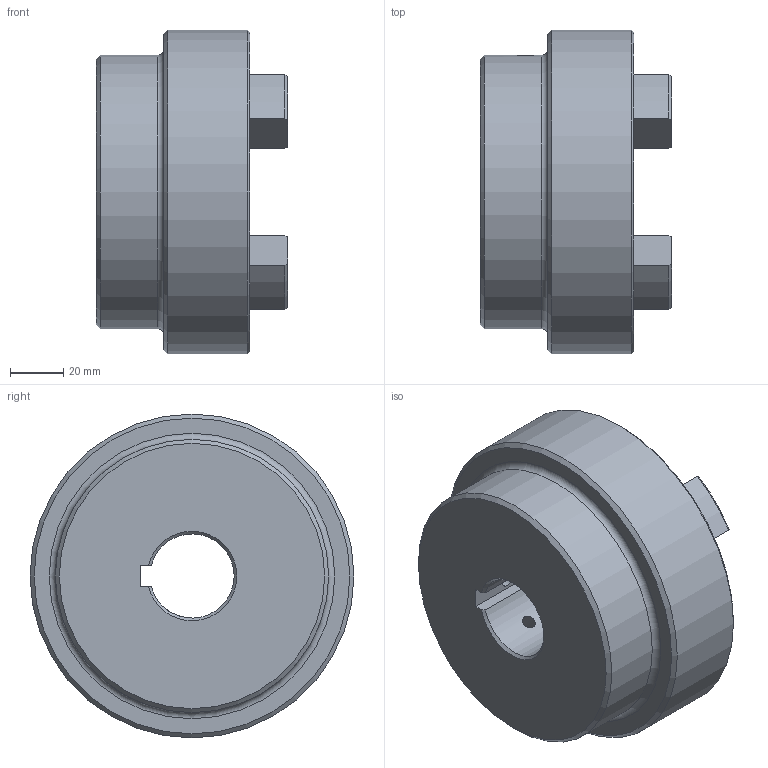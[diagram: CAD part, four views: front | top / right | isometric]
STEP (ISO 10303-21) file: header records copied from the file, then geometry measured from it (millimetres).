
FILE_DESCRIPTION (( 'STEP AP203' ), '1' );
FILE_NAME ('RC5.step', '2024-07-25T13:23:47', ( 'Adlan' ), ( '' ), 'SwSTEP 2.0', 'SolidWorks 2013', '' );
FILE_SCHEMA (( 'CONFIG_CONTROL_DESIGN' ));
Length unit declared in the file: inch
Products named in the file (1): RC5
Bounding box: 72.14 x 122.17 x 122.17 mm (x, y, z)
Volume: 444294.4 mm3; surface area: 59515 mm2
Topology: 1 solids, 1 shells, 83 faces, 210 edges, 131 vertices
Faces by surface type: cylinder 33, plane 19, torus 17, cone 14
Full cylindrical faces by diameter (mm): 5.105 x2, 103.124 x1, 122.174 x1
Entity records: 2759 total; most frequent: CARTESIAN_POINT 678, DIRECTION 446, ORIENTED_EDGE 394, EDGE_CURVE 197, AXIS2_PLACEMENT_3D 178, VERTEX_POINT 128, EDGE_LOOP 101, CIRCLE 94
